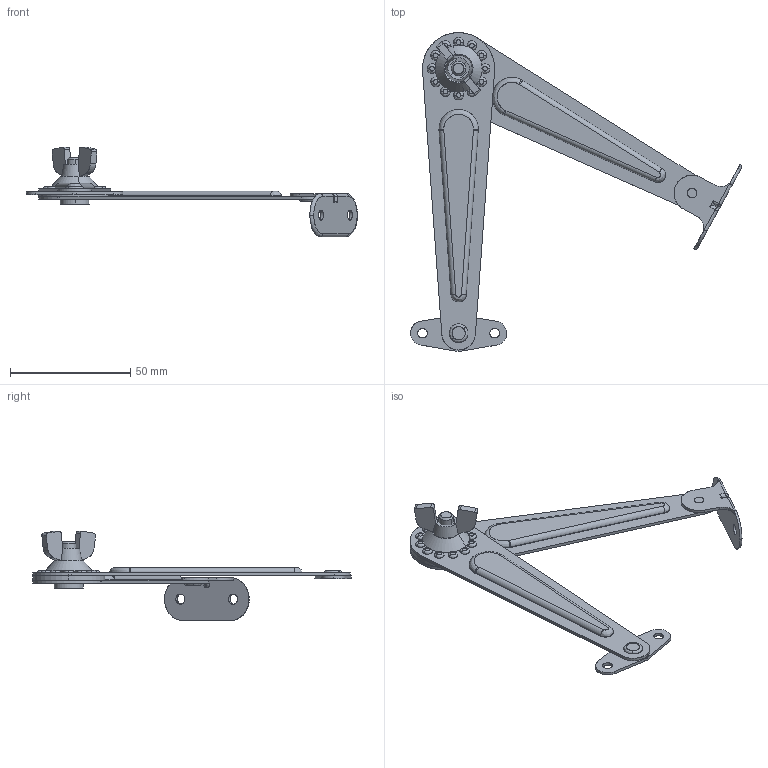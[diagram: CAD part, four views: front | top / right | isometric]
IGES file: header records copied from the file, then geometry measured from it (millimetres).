
Start section: SolidWorks IGES file using analytic representation for surfaces
Global section: file name: C:\Users\cbrechard\Desktop\BA 861.IGS; native system: SolidWorks 2017; preprocessor: SolidWorks 2017; author: cbrechard; date: 191029.171853; units: millimetre
Bounding box: 137.63 x 132.59 x 37.28 mm (x, y, z)
Surface area: 20060.6 mm2 (no closed solid volume)
Topology: 0 solids, 0 shells, 317 faces, 5504 edges, 5502 vertices
Faces by surface type: bspline 205, revolution 112
